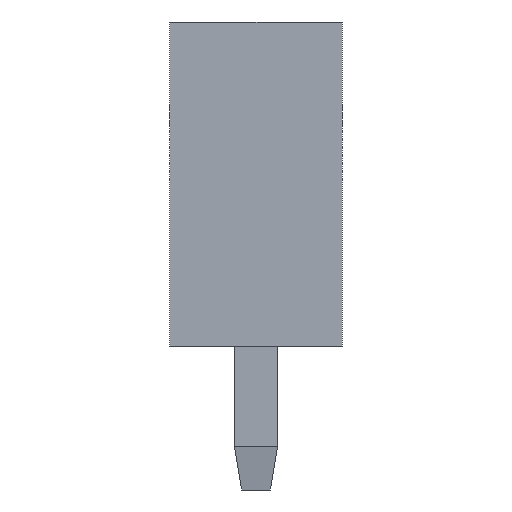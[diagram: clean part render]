
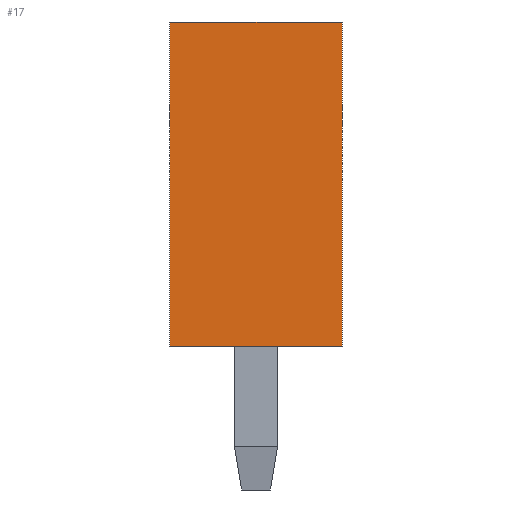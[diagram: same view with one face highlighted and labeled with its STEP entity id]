
A CAD part, left-side view. The second image highlights one B-rep face of the part: STEP entity #17.
In plain terms, the highlighted planar face has unit normal (-1, 0, 0).
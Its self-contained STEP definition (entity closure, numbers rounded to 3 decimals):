
#17 = ADVANCED_FACE('',(#18),#32,.F.);
#18 = FACE_BOUND('',#19,.F.);
#19 = EDGE_LOOP('',(#20,#55,#83,#111));
#20 = ORIENTED_EDGE('',*,*,#21,.F.);
#21 = EDGE_CURVE('',#22,#24,#26,.T.);
#22 = VERTEX_POINT('',#23);
#23 = CARTESIAN_POINT('',(0.,0.,0.));
#24 = VERTEX_POINT('',#25);
#25 = CARTESIAN_POINT('',(0.,0.,4.5));
#26 = SURFACE_CURVE('',#27,(#31,#43),.PCURVE_S1.);
#27 = LINE('',#28,#29);
#28 = CARTESIAN_POINT('',(0.,0.,0.));
#29 = VECTOR('',#30,1.);
#30 = DIRECTION('',(0.,0.,1.));
#31 = PCURVE('',#32,#37);
#32 = PLANE('',#33);
#33 = AXIS2_PLACEMENT_3D('',#34,#35,#36);
#34 = CARTESIAN_POINT('',(0.,0.,0.));
#35 = DIRECTION('',(1.,0.,0.));
#36 = DIRECTION('',(0.,0.,1.));
#37 = DEFINITIONAL_REPRESENTATION('',(#38),#42);
#38 = LINE('',#39,#40);
#39 = CARTESIAN_POINT('',(0.,0.));
#40 = VECTOR('',#41,1.);
#41 = DIRECTION('',(1.,0.));
#42 = ( GEOMETRIC_REPRESENTATION_CONTEXT(2) 
PARAMETRIC_REPRESENTATION_CONTEXT() REPRESENTATION_CONTEXT('2D SPACE',''
  ) );
#43 = PCURVE('',#44,#49);
#44 = PLANE('',#45);
#45 = AXIS2_PLACEMENT_3D('',#46,#47,#48);
#46 = CARTESIAN_POINT('',(0.,0.,0.));
#47 = DIRECTION('',(0.,1.,0.));
#48 = DIRECTION('',(0.,0.,1.));
#49 = DEFINITIONAL_REPRESENTATION('',(#50),#54);
#50 = LINE('',#51,#52);
#51 = CARTESIAN_POINT('',(0.,0.));
#52 = VECTOR('',#53,1.);
#53 = DIRECTION('',(1.,0.));
#54 = ( GEOMETRIC_REPRESENTATION_CONTEXT(2) 
PARAMETRIC_REPRESENTATION_CONTEXT() REPRESENTATION_CONTEXT('2D SPACE',''
  ) );
#55 = ORIENTED_EDGE('',*,*,#56,.T.);
#56 = EDGE_CURVE('',#22,#57,#59,.T.);
#57 = VERTEX_POINT('',#58);
#58 = CARTESIAN_POINT('',(0.,2.4,0.));
#59 = SURFACE_CURVE('',#60,(#64,#71),.PCURVE_S1.);
#60 = LINE('',#61,#62);
#61 = CARTESIAN_POINT('',(0.,0.,0.));
#62 = VECTOR('',#63,1.);
#63 = DIRECTION('',(0.,1.,0.));
#64 = PCURVE('',#32,#65);
#65 = DEFINITIONAL_REPRESENTATION('',(#66),#70);
#66 = LINE('',#67,#68);
#67 = CARTESIAN_POINT('',(0.,0.));
#68 = VECTOR('',#69,1.);
#69 = DIRECTION('',(0.,-1.));
#70 = ( GEOMETRIC_REPRESENTATION_CONTEXT(2) 
PARAMETRIC_REPRESENTATION_CONTEXT() REPRESENTATION_CONTEXT('2D SPACE',''
  ) );
#71 = PCURVE('',#72,#77);
#72 = PLANE('',#73);
#73 = AXIS2_PLACEMENT_3D('',#74,#75,#76);
#74 = CARTESIAN_POINT('',(0.,0.,0.));
#75 = DIRECTION('',(0.,0.,1.));
#76 = DIRECTION('',(1.,0.,0.));
#77 = DEFINITIONAL_REPRESENTATION('',(#78),#82);
#78 = LINE('',#79,#80);
#79 = CARTESIAN_POINT('',(0.,0.));
#80 = VECTOR('',#81,1.);
#81 = DIRECTION('',(0.,1.));
#82 = ( GEOMETRIC_REPRESENTATION_CONTEXT(2) 
PARAMETRIC_REPRESENTATION_CONTEXT() REPRESENTATION_CONTEXT('2D SPACE',''
  ) );
#83 = ORIENTED_EDGE('',*,*,#84,.T.);
#84 = EDGE_CURVE('',#57,#85,#87,.T.);
#85 = VERTEX_POINT('',#86);
#86 = CARTESIAN_POINT('',(0.,2.4,4.5));
#87 = SURFACE_CURVE('',#88,(#92,#99),.PCURVE_S1.);
#88 = LINE('',#89,#90);
#89 = CARTESIAN_POINT('',(0.,2.4,0.));
#90 = VECTOR('',#91,1.);
#91 = DIRECTION('',(0.,0.,1.));
#92 = PCURVE('',#32,#93);
#93 = DEFINITIONAL_REPRESENTATION('',(#94),#98);
#94 = LINE('',#95,#96);
#95 = CARTESIAN_POINT('',(0.,-2.4));
#96 = VECTOR('',#97,1.);
#97 = DIRECTION('',(1.,0.));
#98 = ( GEOMETRIC_REPRESENTATION_CONTEXT(2) 
PARAMETRIC_REPRESENTATION_CONTEXT() REPRESENTATION_CONTEXT('2D SPACE',''
  ) );
#99 = PCURVE('',#100,#105);
#100 = PLANE('',#101);
#101 = AXIS2_PLACEMENT_3D('',#102,#103,#104);
#102 = CARTESIAN_POINT('',(0.,2.4,0.));
#103 = DIRECTION('',(0.,1.,0.));
#104 = DIRECTION('',(0.,0.,1.));
#105 = DEFINITIONAL_REPRESENTATION('',(#106),#110);
#106 = LINE('',#107,#108);
#107 = CARTESIAN_POINT('',(0.,0.));
#108 = VECTOR('',#109,1.);
#109 = DIRECTION('',(1.,0.));
#110 = ( GEOMETRIC_REPRESENTATION_CONTEXT(2) 
PARAMETRIC_REPRESENTATION_CONTEXT() REPRESENTATION_CONTEXT('2D SPACE',''
  ) );
#111 = ORIENTED_EDGE('',*,*,#112,.F.);
#112 = EDGE_CURVE('',#24,#85,#113,.T.);
#113 = SURFACE_CURVE('',#114,(#118,#125),.PCURVE_S1.);
#114 = LINE('',#115,#116);
#115 = CARTESIAN_POINT('',(0.,0.,4.5));
#116 = VECTOR('',#117,1.);
#117 = DIRECTION('',(0.,1.,0.));
#118 = PCURVE('',#32,#119);
#119 = DEFINITIONAL_REPRESENTATION('',(#120),#124);
#120 = LINE('',#121,#122);
#121 = CARTESIAN_POINT('',(4.5,0.));
#122 = VECTOR('',#123,1.);
#123 = DIRECTION('',(0.,-1.));
#124 = ( GEOMETRIC_REPRESENTATION_CONTEXT(2) 
PARAMETRIC_REPRESENTATION_CONTEXT() REPRESENTATION_CONTEXT('2D SPACE',''
  ) );
#125 = PCURVE('',#126,#131);
#126 = PLANE('',#127);
#127 = AXIS2_PLACEMENT_3D('',#128,#129,#130);
#128 = CARTESIAN_POINT('',(0.,0.,4.5));
#129 = DIRECTION('',(0.,0.,1.));
#130 = DIRECTION('',(1.,0.,0.));
#131 = DEFINITIONAL_REPRESENTATION('',(#132),#136);
#132 = LINE('',#133,#134);
#133 = CARTESIAN_POINT('',(0.,0.));
#134 = VECTOR('',#135,1.);
#135 = DIRECTION('',(0.,1.));
#136 = ( GEOMETRIC_REPRESENTATION_CONTEXT(2) 
PARAMETRIC_REPRESENTATION_CONTEXT() REPRESENTATION_CONTEXT('2D SPACE',''
  ) );
